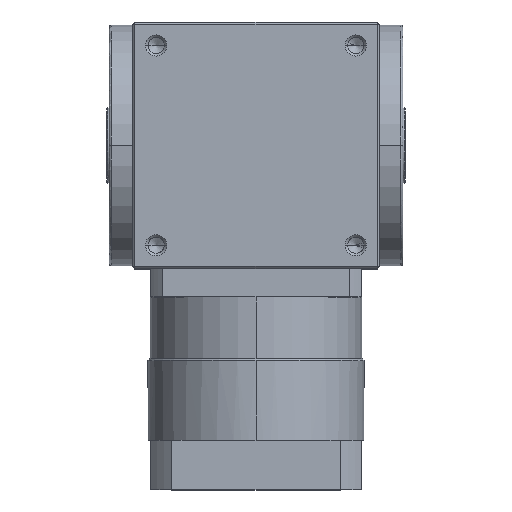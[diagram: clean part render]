
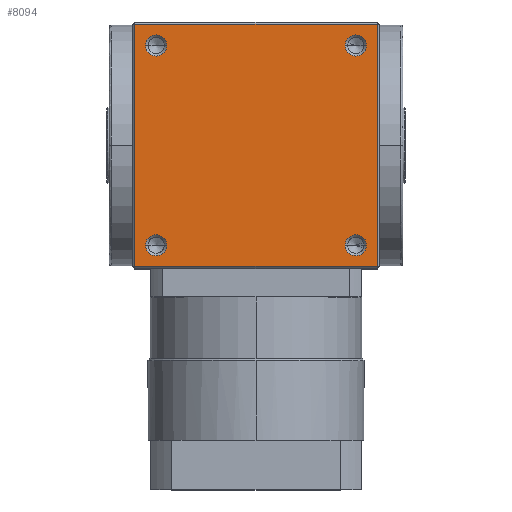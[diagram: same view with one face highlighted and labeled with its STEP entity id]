
A CAD part, top view. The second image highlights one B-rep face of the part: STEP entity #8094.
In plain terms, the highlighted planar face has unit normal (0, 0, 1).
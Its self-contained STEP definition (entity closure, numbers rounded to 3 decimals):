
#45 = CARTESIAN_POINT ( 'NONE',  ( 85., 85., 105. ) ) ;
#98 = EDGE_CURVE ( 'NONE', #8077, #517, #3341, .T. ) ;
#183 = DIRECTION ( 'NONE',  ( 1., 0., 0. ) ) ;
#213 = VERTEX_POINT ( 'NONE', #4443 ) ;
#280 = ORIENTED_EDGE ( 'NONE', *, *, #2580, .F. ) ;
#517 = VERTEX_POINT ( 'NONE', #8718 ) ;
#574 = EDGE_CURVE ( 'NONE', #8614, #1479, #6247, .T. ) ;
#601 = DIRECTION ( 'NONE',  ( 1., 0., 0. ) ) ;
#994 = DIRECTION ( 'NONE',  ( 1., 0., 0. ) ) ;
#1134 = FACE_BOUND ( 'NONE', #11225, .T. ) ;
#1241 = VECTOR ( 'NONE', #4174, 1000. ) ;
#1432 = CARTESIAN_POINT ( 'NONE',  ( 0., 103., 105. ) ) ;
#1479 = VERTEX_POINT ( 'NONE', #1483 ) ;
#1483 = CARTESIAN_POINT ( 'NONE',  ( -103., 103., 105. ) ) ;
#1510 = CARTESIAN_POINT ( 'NONE',  ( -85., 85., 105. ) ) ;
#1613 = CARTESIAN_POINT ( 'NONE',  ( 76., -85., 105. ) ) ;
#1619 = DIRECTION ( 'NONE',  ( 0., 0., 1. ) ) ;
#1709 = AXIS2_PLACEMENT_3D ( 'NONE', #9627, #3993, #10572 ) ;
#1725 = ORIENTED_EDGE ( 'NONE', *, *, #7134, .T. ) ;
#1831 = CIRCLE ( 'NONE', #5587, 9. ) ;
#2510 = EDGE_CURVE ( 'NONE', #213, #9333, #10230, .T. ) ;
#2542 = DIRECTION ( 'NONE',  ( 0., -1., 0. ) ) ;
#2580 = EDGE_CURVE ( 'NONE', #517, #8077, #7895, .T. ) ;
#2583 = CARTESIAN_POINT ( 'NONE',  ( 103., 0., 105. ) ) ;
#2866 = AXIS2_PLACEMENT_3D ( 'NONE', #7258, #1619, #8193 ) ;
#3172 = VECTOR ( 'NONE', #7584, 1000. ) ;
#3200 = CARTESIAN_POINT ( 'NONE',  ( -103., 0., 105. ) ) ;
#3341 = CIRCLE ( 'NONE', #4968, 9. ) ;
#3386 = EDGE_LOOP ( 'NONE', ( #5706, #8762, #1725, #11915 ) ) ;
#3426 = EDGE_LOOP ( 'NONE', ( #280, #11116 ) ) ;
#3525 = AXIS2_PLACEMENT_3D ( 'NONE', #5318, #11874, #6279 ) ;
#3600 = CARTESIAN_POINT ( 'NONE',  ( 94., -85., 105. ) ) ;
#3606 = FACE_OUTER_BOUND ( 'NONE', #3386, .T. ) ;
#3666 = CARTESIAN_POINT ( 'NONE',  ( -85., 85., 105. ) ) ;
#3993 = DIRECTION ( 'NONE',  ( 0., 0., 1. ) ) ;
#4140 = DIRECTION ( 'NONE',  ( 0., 0., -1. ) ) ;
#4174 = DIRECTION ( 'NONE',  ( -1., 0., 0. ) ) ;
#4251 = EDGE_CURVE ( 'NONE', #11560, #9538, #10423, .T. ) ;
#4413 = CARTESIAN_POINT ( 'NONE',  ( -85., -85., 105. ) ) ;
#4443 = CARTESIAN_POINT ( 'NONE',  ( -94., -85., 105. ) ) ;
#4615 = AXIS2_PLACEMENT_3D ( 'NONE', #9769, #4140, #10721 ) ;
#4622 = DIRECTION ( 'NONE',  ( 1., 0., 0. ) ) ;
#4798 = VERTEX_POINT ( 'NONE', #7572 ) ;
#4865 = EDGE_CURVE ( 'NONE', #6583, #9679, #7740, .T. ) ;
#4968 = AXIS2_PLACEMENT_3D ( 'NONE', #1510, #7147, #601 ) ;
#5117 = ORIENTED_EDGE ( 'NONE', *, *, #6690, .F. ) ;
#5316 = ORIENTED_EDGE ( 'NONE', *, *, #7788, .F. ) ;
#5318 = CARTESIAN_POINT ( 'NONE',  ( -85., -85., 105. ) ) ;
#5336 = DIRECTION ( 'NONE',  ( 1., 0., 0. ) ) ;
#5369 = EDGE_LOOP ( 'NONE', ( #9554, #5630 ) ) ;
#5381 = LINE ( 'NONE', #2583, #6706 ) ;
#5413 = CARTESIAN_POINT ( 'NONE',  ( 103., -103., 105. ) ) ;
#5587 = AXIS2_PLACEMENT_3D ( 'NONE', #45, #6593, #994 ) ;
#5618 = CARTESIAN_POINT ( 'NONE',  ( 76., 85., 105. ) ) ;
#5630 = ORIENTED_EDGE ( 'NONE', *, *, #11646, .F. ) ;
#5658 = LINE ( 'NONE', #9425, #3172 ) ;
#5706 = ORIENTED_EDGE ( 'NONE', *, *, #11164, .F. ) ;
#5790 = DIRECTION ( 'NONE',  ( 0., 0., 1. ) ) ;
#5958 = VECTOR ( 'NONE', #8795, 1000. ) ;
#6112 = FACE_BOUND ( 'NONE', #5369, .T. ) ;
#6247 = LINE ( 'NONE', #3200, #5958 ) ;
#6279 = DIRECTION ( 'NONE',  ( 1., 0., 0. ) ) ;
#6434 = EDGE_LOOP ( 'NONE', ( #5117, #10987 ) ) ;
#6583 = VERTEX_POINT ( 'NONE', #3600 ) ;
#6593 = DIRECTION ( 'NONE',  ( 0., 0., 1. ) ) ;
#6690 = EDGE_CURVE ( 'NONE', #9538, #11560, #1831, .T. ) ;
#6706 = VECTOR ( 'NONE', #2542, 1000. ) ;
#7134 = EDGE_CURVE ( 'NONE', #4798, #1479, #8412, .T. ) ;
#7147 = DIRECTION ( 'NONE',  ( 0., 0., 1. ) ) ;
#7258 = CARTESIAN_POINT ( 'NONE',  ( 85., 85., 105. ) ) ;
#7572 = CARTESIAN_POINT ( 'NONE',  ( 103., 103., 105. ) ) ;
#7574 = CARTESIAN_POINT ( 'NONE',  ( -76., -85., 105. ) ) ;
#7584 = DIRECTION ( 'NONE',  ( -1., 0., 0. ) ) ;
#7740 = CIRCLE ( 'NONE', #1709, 9. ) ;
#7788 = EDGE_CURVE ( 'NONE', #9333, #213, #10371, .T. ) ;
#7860 = EDGE_CURVE ( 'NONE', #4798, #8212, #5381, .T. ) ;
#7895 = CIRCLE ( 'NONE', #11052, 9. ) ;
#8077 = VERTEX_POINT ( 'NONE', #8779 ) ;
#8094 = ADVANCED_FACE ( 'NONE', ( #3606, #10807, #8594, #1134, #6112 ), #9720, .F. ) ;
#8193 = DIRECTION ( 'NONE',  ( 1., 0., 0. ) ) ;
#8212 = VERTEX_POINT ( 'NONE', #5413 ) ;
#8409 = CIRCLE ( 'NONE', #8646, 9. ) ;
#8412 = LINE ( 'NONE', #1432, #1241 ) ;
#8594 = FACE_BOUND ( 'NONE', #6434, .T. ) ;
#8614 = VERTEX_POINT ( 'NONE', #10874 ) ;
#8646 = AXIS2_PLACEMENT_3D ( 'NONE', #11374, #5790, #183 ) ;
#8718 = CARTESIAN_POINT ( 'NONE',  ( -76., 85., 105. ) ) ;
#8762 = ORIENTED_EDGE ( 'NONE', *, *, #7860, .F. ) ;
#8779 = CARTESIAN_POINT ( 'NONE',  ( -94., 85., 105. ) ) ;
#8795 = DIRECTION ( 'NONE',  ( 0., 1., 0. ) ) ;
#9142 = AXIS2_PLACEMENT_3D ( 'NONE', #4413, #10955, #5336 ) ;
#9333 = VERTEX_POINT ( 'NONE', #7574 ) ;
#9425 = CARTESIAN_POINT ( 'NONE',  ( 0., -103., 105. ) ) ;
#9538 = VERTEX_POINT ( 'NONE', #11675 ) ;
#9554 = ORIENTED_EDGE ( 'NONE', *, *, #4865, .F. ) ;
#9627 = CARTESIAN_POINT ( 'NONE',  ( 85., -85., 105. ) ) ;
#9679 = VERTEX_POINT ( 'NONE', #1613 ) ;
#9720 = PLANE ( 'NONE',  #4615 ) ;
#9769 = CARTESIAN_POINT ( 'NONE',  ( 0., 0., 105. ) ) ;
#10030 = ORIENTED_EDGE ( 'NONE', *, *, #2510, .F. ) ;
#10222 = DIRECTION ( 'NONE',  ( 0., 0., 1. ) ) ;
#10230 = CIRCLE ( 'NONE', #3525, 9. ) ;
#10371 = CIRCLE ( 'NONE', #9142, 9. ) ;
#10423 = CIRCLE ( 'NONE', #2866, 9. ) ;
#10572 = DIRECTION ( 'NONE',  ( 1., 0., 0. ) ) ;
#10721 = DIRECTION ( 'NONE',  ( -1., 0., 0. ) ) ;
#10807 = FACE_BOUND ( 'NONE', #3426, .T. ) ;
#10874 = CARTESIAN_POINT ( 'NONE',  ( -103., -103., 105. ) ) ;
#10955 = DIRECTION ( 'NONE',  ( 0., 0., 1. ) ) ;
#10987 = ORIENTED_EDGE ( 'NONE', *, *, #4251, .F. ) ;
#11052 = AXIS2_PLACEMENT_3D ( 'NONE', #3666, #10222, #4622 ) ;
#11116 = ORIENTED_EDGE ( 'NONE', *, *, #98, .F. ) ;
#11164 = EDGE_CURVE ( 'NONE', #8212, #8614, #5658, .T. ) ;
#11225 = EDGE_LOOP ( 'NONE', ( #5316, #10030 ) ) ;
#11374 = CARTESIAN_POINT ( 'NONE',  ( 85., -85., 105. ) ) ;
#11560 = VERTEX_POINT ( 'NONE', #5618 ) ;
#11646 = EDGE_CURVE ( 'NONE', #9679, #6583, #8409, .T. ) ;
#11675 = CARTESIAN_POINT ( 'NONE',  ( 94., 85., 105. ) ) ;
#11874 = DIRECTION ( 'NONE',  ( 0., 0., 1. ) ) ;
#11915 = ORIENTED_EDGE ( 'NONE', *, *, #574, .F. ) ;
